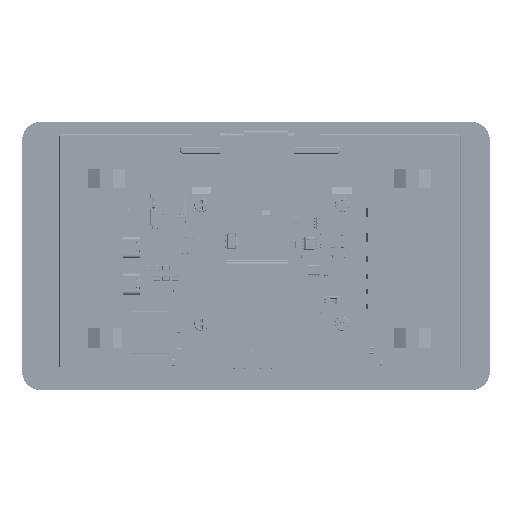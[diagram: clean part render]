
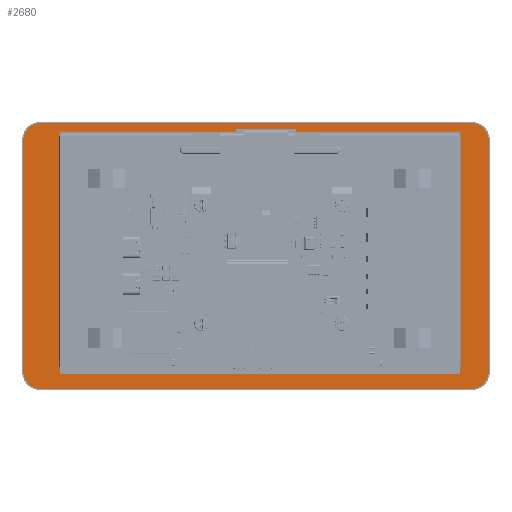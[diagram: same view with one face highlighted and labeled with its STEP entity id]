
A CAD part, front view. The second image highlights one B-rep face of the part: STEP entity #2680.
In plain terms, the highlighted planar face has unit normal (0, -1, 0).
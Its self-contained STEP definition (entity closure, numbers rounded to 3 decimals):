
#1007=CARTESIAN_POINT('',(88.6,-0.2,-46.48));
#1008=DIRECTION('',(0.,-1.,0.));
#1009=DIRECTION('',(0.,0.,-1.));
#1010=AXIS2_PLACEMENT_3D('',#1007,#1008,#1009);
#1015=DIRECTION('',(1.,0.,0.));
#1016=VECTOR('',#1015,177.2);
#1017=CARTESIAN_POINT('',(-88.6,-0.2,-53.86));
#1018=LINE('',#1017,#1016);
#1022=CARTESIAN_POINT('',(-88.6,-0.2,-46.48));
#1023=DIRECTION('',(0.,-1.,0.));
#1024=DIRECTION('',(-1.,0.,0.));
#1025=AXIS2_PLACEMENT_3D('',#1022,#1023,#1024);
#1030=DIRECTION('',(0.,0.,-1.));
#1031=VECTOR('',#1030,95.);
#1032=CARTESIAN_POINT('',(-95.98,-0.2,48.52));
#1033=LINE('',#1032,#1031);
#1037=CARTESIAN_POINT('',(-88.6,-0.2,48.52));
#1038=DIRECTION('',(0.,-1.,0.));
#1039=DIRECTION('',(0.,0.,1.));
#1040=AXIS2_PLACEMENT_3D('',#1037,#1038,#1039);
#1045=DIRECTION('',(-1.,0.,0.));
#1046=VECTOR('',#1045,177.2);
#1047=CARTESIAN_POINT('',(88.6,-0.2,55.9));
#1048=LINE('',#1047,#1046);
#1052=CARTESIAN_POINT('',(88.6,-0.2,48.52));
#1053=DIRECTION('',(0.,-1.,0.));
#1054=DIRECTION('',(1.,0.,0.));
#1055=AXIS2_PLACEMENT_3D('',#1052,#1053,#1054);
#1060=DIRECTION('',(0.,0.,1.));
#1061=VECTOR('',#1060,95.);
#1062=CARTESIAN_POINT('',(95.98,-0.2,-46.48));
#1063=LINE('',#1062,#1061);
#1067=DIRECTION('',(-1.,0.,0.));
#1068=VECTOR('',#1067,164.88);
#1069=CARTESIAN_POINT('',(84.24,-0.2,-47.53));
#1070=LINE('',#1069,#1068);
#1074=DIRECTION('',(0.,0.,-1.));
#1075=VECTOR('',#1074,99.77);
#1076=CARTESIAN_POINT('',(84.24,-0.2,52.24));
#1077=LINE('',#1076,#1075);
#1081=DIRECTION('',(1.,0.,0.));
#1082=VECTOR('',#1081,67.902);
#1083=CARTESIAN_POINT('',(16.338,-0.2,52.24));
#1084=LINE('',#1083,#1082);
#1088=DIRECTION('',(0.,0.,-1.));
#1089=VECTOR('',#1088,1.274);
#1090=CARTESIAN_POINT('',(16.338,-0.2,53.514));
#1091=LINE('',#1090,#1089);
#1095=DIRECTION('',(1.,0.,0.));
#1096=VECTOR('',#1095,24.507);
#1097=CARTESIAN_POINT('',(-8.168,-0.2,53.514));
#1098=LINE('',#1097,#1096);
#1102=DIRECTION('',(0.,0.,1.));
#1103=VECTOR('',#1102,1.274);
#1104=CARTESIAN_POINT('',(-8.168,-0.2,52.24));
#1105=LINE('',#1104,#1103);
#1109=DIRECTION('',(1.,0.,0.));
#1110=VECTOR('',#1109,72.472);
#1111=CARTESIAN_POINT('',(-80.64,-0.2,52.24));
#1112=LINE('',#1111,#1110);
#1116=DIRECTION('',(0.,0.,1.));
#1117=VECTOR('',#1116,99.77);
#1118=CARTESIAN_POINT('',(-80.64,-0.2,-47.53));
#1119=LINE('',#1118,#1117);
#1721=CARTESIAN_POINT('',(88.6,-0.2,-53.86));
#1722=CARTESIAN_POINT('',(95.98,-0.2,-46.48));
#1723=VERTEX_POINT('',#1721);
#1724=VERTEX_POINT('',#1722);
#1725=CARTESIAN_POINT('',(95.98,-0.2,48.52));
#1726=VERTEX_POINT('',#1725);
#1727=CARTESIAN_POINT('',(88.6,-0.2,55.9));
#1728=VERTEX_POINT('',#1727);
#1729=CARTESIAN_POINT('',(-88.6,-0.2,55.9));
#1730=VERTEX_POINT('',#1729);
#1731=CARTESIAN_POINT('',(-95.98,-0.2,48.52));
#1732=VERTEX_POINT('',#1731);
#1733=CARTESIAN_POINT('',(-95.98,-0.2,-46.48));
#1734=VERTEX_POINT('',#1733);
#1735=CARTESIAN_POINT('',(-88.6,-0.2,-53.86));
#1736=VERTEX_POINT('',#1735);
#1737=CARTESIAN_POINT('',(84.24,-0.2,-47.53));
#1738=CARTESIAN_POINT('',(-80.64,-0.2,-47.53));
#1739=VERTEX_POINT('',#1737);
#1740=VERTEX_POINT('',#1738);
#1741=CARTESIAN_POINT('',(-80.64,-0.2,52.24));
#1742=VERTEX_POINT('',#1741);
#1743=CARTESIAN_POINT('',(-8.168,-0.2,52.24));
#1744=VERTEX_POINT('',#1743);
#1745=CARTESIAN_POINT('',(-8.168,-0.2,53.514));
#1746=VERTEX_POINT('',#1745);
#1747=CARTESIAN_POINT('',(16.338,-0.2,53.514));
#1748=VERTEX_POINT('',#1747);
#1749=CARTESIAN_POINT('',(16.338,-0.2,52.24));
#1750=VERTEX_POINT('',#1749);
#1751=CARTESIAN_POINT('',(84.24,-0.2,52.24));
#1752=VERTEX_POINT('',#1751);
#2647=CARTESIAN_POINT('',(0.,-0.2,0.));
#2648=DIRECTION('',(0.,-1.,0.));
#2649=DIRECTION('',(-1.,0.,0.));
#2650=AXIS2_PLACEMENT_3D('',#2647,#2648,#2649);
#2651=PLANE('',#2650);
#2652=ORIENTED_EDGE('',*,*,#2543,.F.);
#2653=ORIENTED_EDGE('',*,*,#2558,.F.);
#2654=ORIENTED_EDGE('',*,*,#2572,.F.);
#2655=ORIENTED_EDGE('',*,*,#2586,.F.);
#2656=ORIENTED_EDGE('',*,*,#2600,.F.);
#2657=ORIENTED_EDGE('',*,*,#2614,.F.);
#2658=ORIENTED_EDGE('',*,*,#2628,.F.);
#2659=ORIENTED_EDGE('',*,*,#2641,.F.);
#2660=EDGE_LOOP('',(#2652,#2653,#2654,#2655,#2656,#2657,#2658,#2659));
#2661=FACE_OUTER_BOUND('',#2660,.F.);
#2663=ORIENTED_EDGE('',*,*,#2662,.F.);
#2665=ORIENTED_EDGE('',*,*,#2664,.F.);
#2667=ORIENTED_EDGE('',*,*,#2666,.F.);
#2669=ORIENTED_EDGE('',*,*,#2668,.F.);
#2671=ORIENTED_EDGE('',*,*,#2670,.F.);
#2673=ORIENTED_EDGE('',*,*,#2672,.F.);
#2675=ORIENTED_EDGE('',*,*,#2674,.F.);
#2677=ORIENTED_EDGE('',*,*,#2676,.F.);
#2678=EDGE_LOOP('',(#2663,#2665,#2667,#2669,#2671,#2673,#2675,#2677));
#2679=FACE_BOUND('',#2678,.F.);
#2680=ADVANCED_FACE('',(#2661,#2679),#2651,.T.);
#1011=CIRCLE('',#1010,7.38);
#1026=CIRCLE('',#1025,7.38);
#1041=CIRCLE('',#1040,7.38);
#1056=CIRCLE('',#1055,7.38);
#2543=EDGE_CURVE('',#1723,#1724,#1011,.T.);
#2558=EDGE_CURVE('',#1736,#1723,#1018,.T.);
#2572=EDGE_CURVE('',#1734,#1736,#1026,.T.);
#2586=EDGE_CURVE('',#1732,#1734,#1033,.T.);
#2600=EDGE_CURVE('',#1730,#1732,#1041,.T.);
#2614=EDGE_CURVE('',#1728,#1730,#1048,.T.);
#2628=EDGE_CURVE('',#1726,#1728,#1056,.T.);
#2641=EDGE_CURVE('',#1724,#1726,#1063,.T.);
#2662=EDGE_CURVE('',#1739,#1740,#1070,.T.);
#2664=EDGE_CURVE('',#1752,#1739,#1077,.T.);
#2666=EDGE_CURVE('',#1750,#1752,#1084,.T.);
#2668=EDGE_CURVE('',#1748,#1750,#1091,.T.);
#2670=EDGE_CURVE('',#1746,#1748,#1098,.T.);
#2672=EDGE_CURVE('',#1744,#1746,#1105,.T.);
#2674=EDGE_CURVE('',#1742,#1744,#1112,.T.);
#2676=EDGE_CURVE('',#1740,#1742,#1119,.T.);
